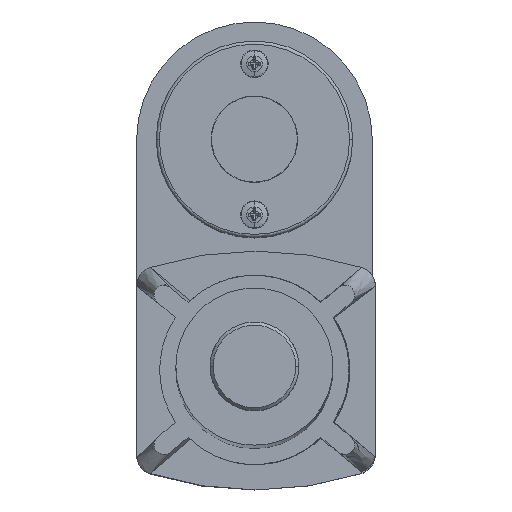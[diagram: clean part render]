
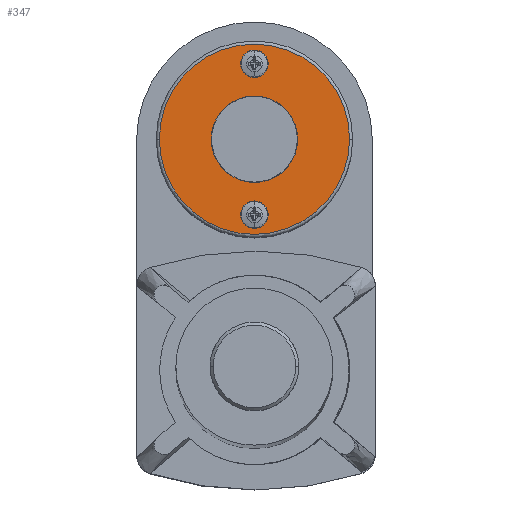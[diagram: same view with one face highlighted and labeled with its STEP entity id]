
A CAD part, top view. The second image highlights one B-rep face of the part: STEP entity #347.
In plain terms, the highlighted planar face has unit normal (0, 0, 1).
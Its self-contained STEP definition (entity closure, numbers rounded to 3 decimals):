
#58 = ORIENTED_EDGE ( 'NONE', *, *, #9604, .F. ) ;
#347 = ADVANCED_FACE ( 'NONE', ( #5007, #8416, #9218 ), #8225, .T. ) ;
#358 = DIRECTION ( 'NONE',  ( 0., 0., 1. ) ) ;
#554 = CIRCLE ( 'NONE', #7425, 2.54 ) ;
#717 = AXIS2_PLACEMENT_3D ( 'NONE', #2636, #6807, #9272 ) ;
#769 = DIRECTION ( 'NONE',  ( -1., 0., 0. ) ) ;
#1346 = CIRCLE ( 'NONE', #2251, 2.54 ) ;
#1447 = EDGE_CURVE ( 'NONE', #6729, #4180, #554, .T. ) ;
#1979 = AXIS2_PLACEMENT_3D ( 'NONE', #8778, #8007, #5512 ) ;
#1991 = CARTESIAN_POINT ( 'NONE',  ( 38.608, -56.038, 406.098 ) ) ;
#2011 = CARTESIAN_POINT ( 'NONE',  ( 38.608, -7.238, 406.098 ) ) ;
#2221 = EDGE_CURVE ( 'NONE', #4180, #6729, #1346, .T. ) ;
#2251 = AXIS2_PLACEMENT_3D ( 'NONE', #3687, #10406, #7017 ) ;
#2267 = ORIENTED_EDGE ( 'NONE', *, *, #1447, .F. ) ;
#2636 = CARTESIAN_POINT ( 'NONE',  ( 38.608, -31.638, 406.098 ) ) ;
#3355 = VERTEX_POINT ( 'NONE', #9671 ) ;
#3363 = DIRECTION ( 'NONE',  ( 0., 0., 1. ) ) ;
#3659 = ORIENTED_EDGE ( 'NONE', *, *, #7307, .T. ) ;
#3687 = CARTESIAN_POINT ( 'NONE',  ( 38.608, -7.238, 406.098 ) ) ;
#3700 = DIRECTION ( 'NONE',  ( 0., 0., 1. ) ) ;
#3754 = DIRECTION ( 'NONE',  ( -1., 0., 0. ) ) ;
#3923 = ORIENTED_EDGE ( 'NONE', *, *, #2221, .F. ) ;
#4180 = VERTEX_POINT ( 'NONE', #10581 ) ;
#4292 = EDGE_LOOP ( 'NONE', ( #3659, #7545 ) ) ;
#4347 = CARTESIAN_POINT ( 'NONE',  ( 38.608, -56.038, 406.098 ) ) ;
#4948 = CIRCLE ( 'NONE', #1979, 30.75 ) ;
#5007 = FACE_BOUND ( 'NONE', #8792, .T. ) ;
#5187 = CARTESIAN_POINT ( 'NONE',  ( 7.858, -31.638, 406.098 ) ) ;
#5230 = CARTESIAN_POINT ( 'NONE',  ( 36.068, -7.238, 406.098 ) ) ;
#5512 = DIRECTION ( 'NONE',  ( -1., 0., 0. ) ) ;
#6113 = DIRECTION ( 'NONE',  ( -1., 0., 0. ) ) ;
#6637 = DIRECTION ( 'NONE',  ( 0., 0., 1. ) ) ;
#6729 = VERTEX_POINT ( 'NONE', #5230 ) ;
#6807 = DIRECTION ( 'NONE',  ( 0., 0., 1. ) ) ;
#6925 = CIRCLE ( 'NONE', #717, 30.75 ) ;
#7017 = DIRECTION ( 'NONE',  ( -1., 0., 0. ) ) ;
#7020 = CIRCLE ( 'NONE', #8370, 2.54 ) ;
#7080 = AXIS2_PLACEMENT_3D ( 'NONE', #1991, #3700, #6113 ) ;
#7167 = CARTESIAN_POINT ( 'NONE',  ( 41.148, -56.038, 406.098 ) ) ;
#7307 = EDGE_CURVE ( 'NONE', #9606, #3355, #6925, .T. ) ;
#7425 = AXIS2_PLACEMENT_3D ( 'NONE', #2011, #358, #3754 ) ;
#7453 = EDGE_CURVE ( 'NONE', #8920, #9371, #10885, .T. ) ;
#7507 = EDGE_LOOP ( 'NONE', ( #2267, #3923 ) ) ;
#7544 = DIRECTION ( 'NONE',  ( -1., 0., 0. ) ) ;
#7545 = ORIENTED_EDGE ( 'NONE', *, *, #7943, .T. ) ;
#7943 = EDGE_CURVE ( 'NONE', #3355, #9606, #4948, .T. ) ;
#8007 = DIRECTION ( 'NONE',  ( 0., 0., 1. ) ) ;
#8225 = PLANE ( 'NONE',  #9740 ) ;
#8370 = AXIS2_PLACEMENT_3D ( 'NONE', #4347, #3363, #7544 ) ;
#8416 = FACE_BOUND ( 'NONE', #7507, .T. ) ;
#8778 = CARTESIAN_POINT ( 'NONE',  ( 38.608, -31.638, 406.098 ) ) ;
#8792 = EDGE_LOOP ( 'NONE', ( #10770, #58 ) ) ;
#8920 = VERTEX_POINT ( 'NONE', #10608 ) ;
#9218 = FACE_OUTER_BOUND ( 'NONE', #4292, .T. ) ;
#9272 = DIRECTION ( 'NONE',  ( -1., 0., 0. ) ) ;
#9371 = VERTEX_POINT ( 'NONE', #7167 ) ;
#9604 = EDGE_CURVE ( 'NONE', #9371, #8920, #7020, .T. ) ;
#9606 = VERTEX_POINT ( 'NONE', #5187 ) ;
#9671 = CARTESIAN_POINT ( 'NONE',  ( 69.358, -31.638, 406.098 ) ) ;
#9740 = AXIS2_PLACEMENT_3D ( 'NONE', #9953, #6637, #769 ) ;
#9953 = CARTESIAN_POINT ( 'NONE',  ( 38.608, -31.638, 406.098 ) ) ;
#10406 = DIRECTION ( 'NONE',  ( 0., 0., 1. ) ) ;
#10581 = CARTESIAN_POINT ( 'NONE',  ( 41.148, -7.238, 406.098 ) ) ;
#10608 = CARTESIAN_POINT ( 'NONE',  ( 36.068, -56.038, 406.098 ) ) ;
#10770 = ORIENTED_EDGE ( 'NONE', *, *, #7453, .F. ) ;
#10885 = CIRCLE ( 'NONE', #7080, 2.54 ) ;
